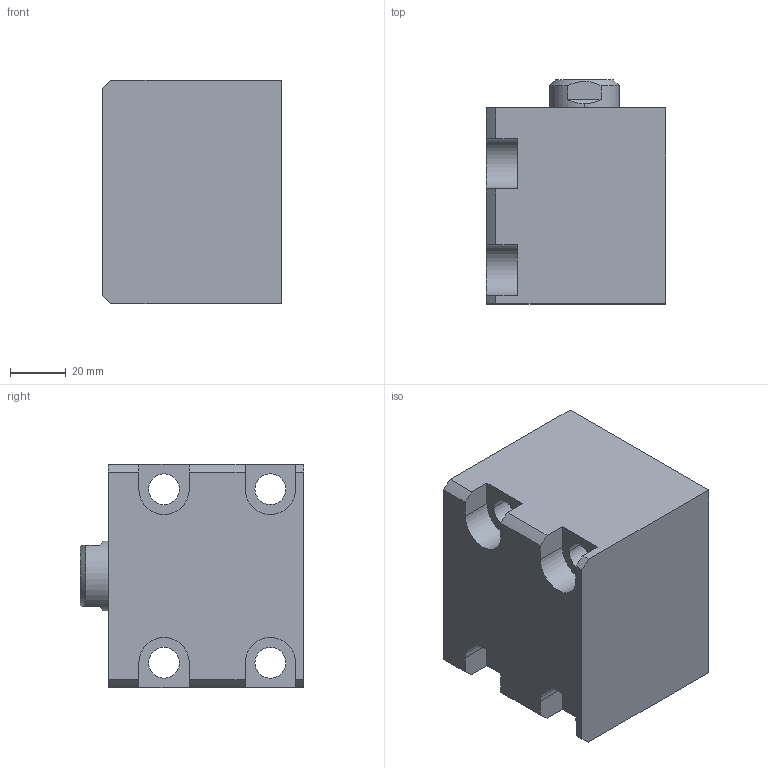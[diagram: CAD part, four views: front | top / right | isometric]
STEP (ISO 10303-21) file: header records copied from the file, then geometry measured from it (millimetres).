
FILE_DESCRIPTION (( 'STEP AP214' ), '1' );
FILE_NAME ('chtb-lam40x15n_asm.STEP', '2018-05-29T08:00:41', ( 'Windows' ), ( 'Microsoft' ), 'SwSTEP 2.0', 'SolidWorks 2015', '' );
FILE_SCHEMA (( 'AUTOMOTIVE_DESIGN' ));
Length unit declared in the file: millimetre
Products named in the file (4): CHTB-SD40X15NHSG; CHTB-SD40QG; CHTB-LAM40X15NBT; chtb-lam40x15n_asm
Assembly tree (3 placements, depth 2):
  chtb-lam40x15n_asm
    CHTB-LAM40X15NBT
    CHTB-SD40QG
    CHTB-SD40X15NHSG
Bounding box: 64 x 80 x 80 mm (x, y, z)
Volume: 308803.2 mm3; surface area: 67912 mm2
Topology: 3 solids, 3 shells, 143 faces, 391 edges, 260 vertices
Faces by surface type: cylinder 70, plane 38, bspline 14, torus 12, cone 9
Entity records: 9725 total; most frequent: CARTESIAN_POINT 6017, ORIENTED_EDGE 770, DIRECTION 698, EDGE_CURVE 385, AXIS2_PLACEMENT_3D 282, VERTEX_POINT 260, EDGE_LOOP 169, CIRCLE 147
